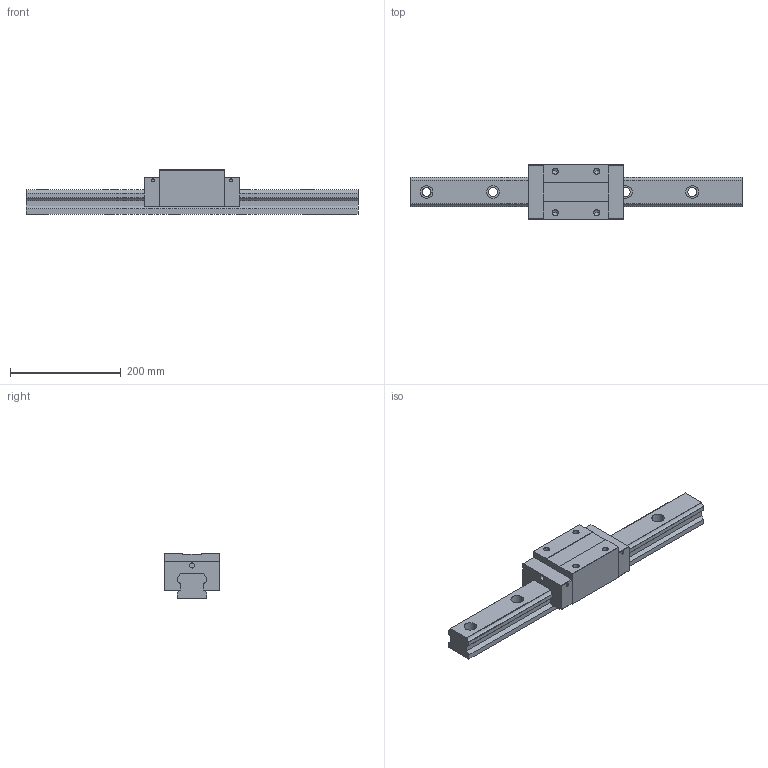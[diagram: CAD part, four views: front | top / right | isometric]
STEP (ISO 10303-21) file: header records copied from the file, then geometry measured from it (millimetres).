
FILE_DESCRIPTION (( 'STEP AP203' ), '1' );
FILE_NAME ('TRH55VL-ZN.STEP', '2024-05-20T09:04:57', ( '' ), ( '' ), 'SwSTEP 2.0', 'SolidWorks 2022', '' );
FILE_SCHEMA (( 'CONFIG_CONTROL_DESIGN' ));
Length unit declared in the file: millimetre
Products named in the file (1): TRH55VL-ZN
Bounding box: 600 x 100 x 80 mm (x, y, z)
Volume: 2007547.6 mm3; surface area: 217712.8 mm2
Topology: 2 solids, 2 shells, 175 faces, 460 edges, 296 vertices
Faces by surface type: plane 83, cylinder 76, cone 16
Entity records: 5453 total; most frequent: DIRECTION 964, CARTESIAN_POINT 924, ORIENTED_EDGE 904, EDGE_CURVE 452, AXIS2_PLACEMENT_3D 336, VERTEX_POINT 296, VECTOR 292, LINE 292
